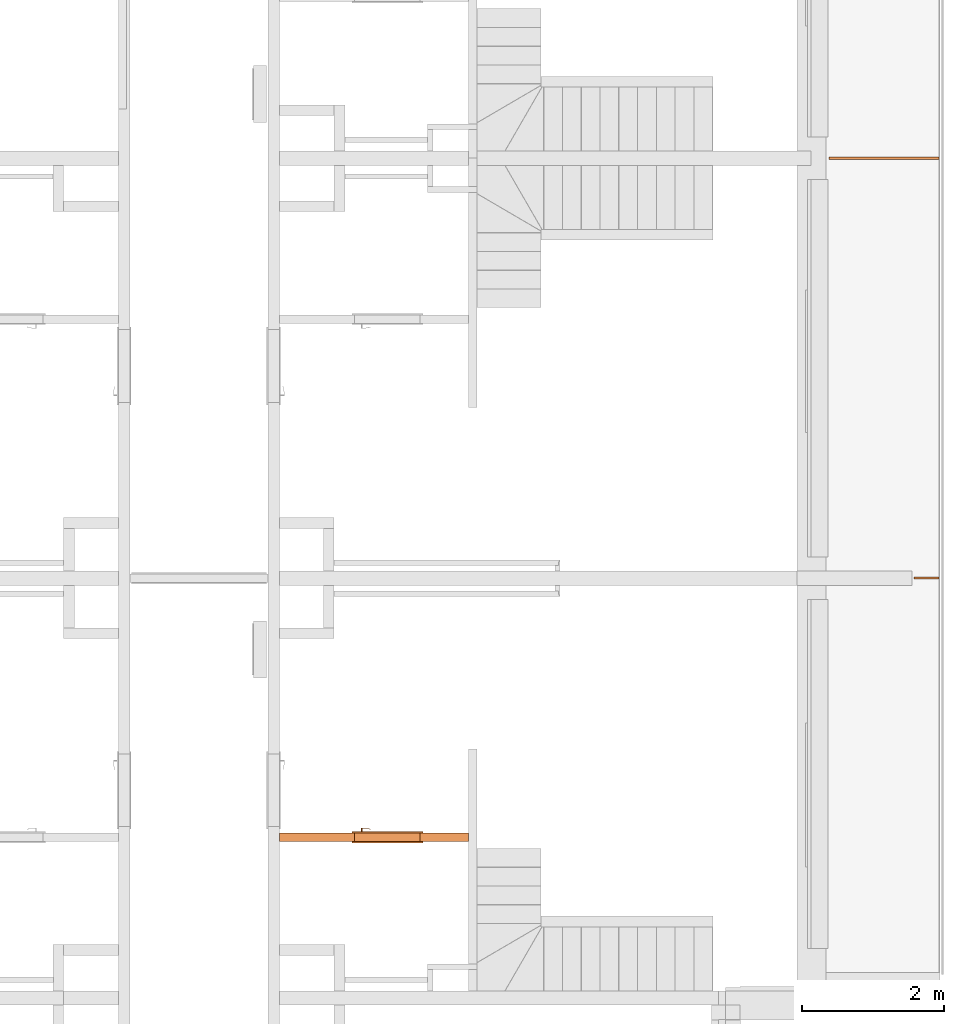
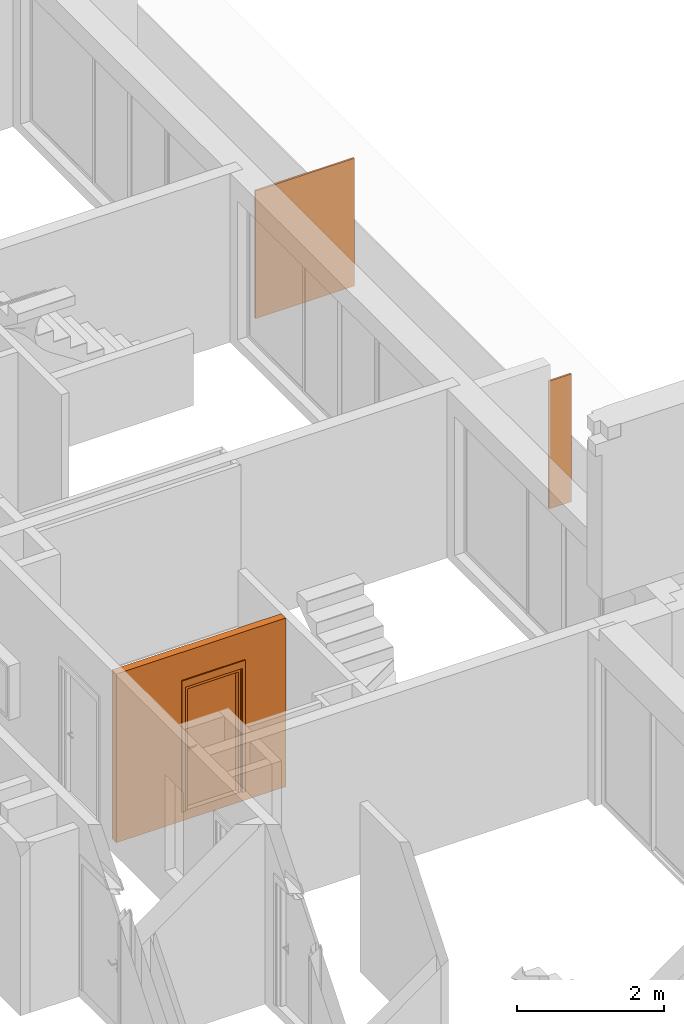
# One storey, part 33 of 61: 4 proxies, 1 opening.
"""IFC2X3 building model written with IfcOpenShell, lengths in millimetres."""

from ifc_helpers import new_model, entity, si_unit, converted_unit, derived_unit, money_unit, direction, frame, origin_with_axes, origin_2d_with_axis, place, context, subcontext, project, spatial, polyline, rectangle, outline, extrude, open_shell, faceted_brep, surface_model, source, transform, mapped, material, type_object, element, fill, save


model = new_model("IFC2X3")

# Units and contexts
model_context = context("Model", 3, precision=0.01, world=origin_with_axes(), true_north=direction((0.34421633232, 0.938890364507)))
body_context = subcontext(model_context, "Body", "Model", "MODEL_VIEW")
ifc_project = project(units=[si_unit("LENGTHUNIT", "METRE", prefix="MILLI"), si_unit("AREAUNIT", "SQUARE_METRE"), si_unit("VOLUMEUNIT", "CUBIC_METRE"), converted_unit("PLANEANGLEUNIT", "DEGREE", entity("IfcPlaneAngleMeasure", 0.0174532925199), si_unit("PLANEANGLEUNIT", "RADIAN"), dimensions=[0, 0, 0, 0, 0, 0, 0]), si_unit("SOLIDANGLEUNIT", "STERADIAN"), money_unit("USD"), converted_unit("TIMEUNIT", "Year", entity("IfcTimeMeasure", 31556926.0), si_unit("TIMEUNIT", "SECOND"), dimensions=[0, 0, 1, 0, 0, 0, 0]), si_unit("MASSUNIT", "GRAM", prefix="KILO"), si_unit("THERMODYNAMICTEMPERATUREUNIT", "DEGREE_CELSIUS"), si_unit("LUMINOUSINTENSITYUNIT", "LUMEN"), si_unit("ENERGYUNIT", "JOULE", prefix="MEGA"), derived_unit("THERMALCONDUCTANCEUNIT", [(si_unit("POWERUNIT", "WATT"), 1), (si_unit("LENGTHUNIT", "METRE"), -1), (si_unit("THERMODYNAMICTEMPERATUREUNIT", "KELVIN"), -1)]), derived_unit("SPECIFICHEATCAPACITYUNIT", [(si_unit("ENERGYUNIT", "JOULE"), 1), (si_unit("MASSUNIT", "GRAM", prefix="KILO"), -1), (si_unit("THERMODYNAMICTEMPERATUREUNIT", "KELVIN"), -1)]), derived_unit("MASSDENSITYUNIT", [(si_unit("MASSUNIT", "GRAM", prefix="KILO"), 1), (si_unit("VOLUMEUNIT", "CUBIC_METRE"), -1)])], contexts=[model_context])

# Site, building, storey
site_placement = place(None, origin_with_axes())
site = spatial("IfcSite", under=ifc_project, at=site_placement, Name="USTRONIE MORSKIE", CompositionType="ELEMENT")
building_placement = place(site_placement, origin_with_axes())
building = spatial("IfcBuilding", under=site, at=building_placement, Name="Budynek", CompositionType="ELEMENT")
storey_placement = place(building_placement, frame((0.0, 0.0, 13000.0), z_axis=(0.0, 0.0, 1.0), x_axis=(1.0, 0.0, 0.0)))
storey = spatial("IfcBuildingStorey", under=building, at=storey_placement, Name="PIĘTRO 4", CompositionType="ELEMENT", Elevation=13000.0)

# Proxies, opening
ifc_material_1 = material(Name="Bloczki silikatowe")
building_element_proxy_type_1 = type_object("IfcBuildingElementProxyType", Name="Bloczki silikatowe 120", PredefinedType="NOTDEFINED")
proxy_1_placement = place(storey_placement, frame((420917.920919, 717361.219701, -160.0), z_axis=(0.0, 0.0, 1.0), x_axis=(-1.0, 0.0, 0.0)))
proxy_1 = element("IfcBuildingElementProxy", 1, at=proxy_1_placement, inside=storey, type_object=building_element_proxy_type_1, material=ifc_material_1, Name="SW-04", context=body_context, shape_type="Brep", body=[
    faceted_brep([(2720.0, -59.9999999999, 2800.0), (2720.0, 59.9999999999, 2800.0), (60.0, 59.9999999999, 2800.0), (60.0, -59.9999999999, 2800.0), (2720.0, -59.9999999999, 0.0), (2720.0, 59.9999999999, 0.0), (60.0, 59.9999999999, 0.0), (60.0, -59.9999999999, 0.0)], [[[0, 1, 2, 3]], [[1, 0, 4, 5]], [[1, 5, 6, 2]], [[7, 3, 2, 6]], [[4, 0, 3, 7]], [[5, 4, 7, 6]]]),
])
opening_placement = place(proxy_1_placement, frame((1200.0, 0.0, 160.0), z_axis=(0.0, 0.0, 1.0), x_axis=(1.0, 0.0, 0.0)))
opening = element("IfcOpeningElement", 2, at=opening_placement, cuts=proxy_1, Name="Dw.4", context=body_context, shape_type="SweptSolid", body=[
    extrude(rectangle(XDim=920.0, YDim=2070.0, at=origin_2d_with_axis()), frame((0.0, 120.0, 1035.0), z_axis=(0.0, -1.0, 0.0), x_axis=(-1.0, 0.0, 0.0)), (0.0, 0.0, 1.0), 360.0),
    extrude(rectangle(XDim=994.0, YDim=2177.0, at=origin_2d_with_axis()), frame((0.0, 60.0000000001, 1088.5), z_axis=(0.0, -1.0, 0.0), x_axis=(-1.0, 0.0, 0.0)), (0.0, 0.0, -1.0), 120.0),
    extrude(rectangle(XDim=994.0, YDim=2177.0, at=origin_2d_with_axis()), frame((0.0, -59.9999999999, 1088.5), z_axis=(0.0, 1.0, 0.0), x_axis=(-1.0, 0.0, 0.0)), (0.0, 0.0, -1.0), 120.0),
])
building_element_proxy_type_2 = type_object("IfcBuildingElementProxyType", Name="Drzwi 23", PredefinedType="NOTDEFINED")
shared_shape = source(origin_with_axes(), body_context, "Body", "SurfaceModel", [
    faceted_brep([(-460.0, -115.0, 0.0), (-435.0, -115.0, 0.0), (-435.0, -120.0, 0.0), (-460.0, -120.0, 0.0), (-460.0, -115.0, 2070.0), (-435.0, -115.0, 2045.0), (-435.0, -120.0, 2045.0), (-460.0, -120.0, 2070.0)], [[[0, 1, 2, 3]], [[0, 4, 5, 1]], [[1, 5, 6, 2]], [[3, 2, 6, 7]], [[4, 0, 3, 7]], [[5, 4, 7, 6]]]),
    faceted_brep([(460.0, -115.0, 2070.0), (435.0, -115.0, 2045.0), (435.0, -120.0, 2045.0), (460.0, -120.0, 2070.0), (460.0, -115.0, 0.0), (435.0, -115.0, 0.0), (435.0, -120.0, 0.0), (460.0, -120.0, 0.0)], [[[0, 1, 2, 3]], [[0, 4, 5, 1]], [[1, 5, 6, 2]], [[3, 2, 6, 7]], [[4, 0, 3, 7]], [[5, 4, 7, 6]]]),
    faceted_brep([(-435.0, -115.0, 2045.0), (435.0, -115.0, 2045.0), (435.0, -120.0, 2045.0), (-435.0, -120.0, 2045.0), (-460.0, -115.0, 2070.0), (460.0, -115.0, 2070.0), (460.0, -120.0, 2070.0), (-460.0, -120.0, 2070.0)], [[[0, 1, 2, 3]], [[0, 4, 5, 1]], [[1, 5, 6, 2]], [[3, 2, 6, 7]], [[4, 0, 3, 7]], [[5, 4, 7, 6]]]),
    faceted_brep([(-497.0, -139.0, 0.0), (-497.0, -120.0, 0.0), (-447.0, -120.0, 0.0), (-447.0, -139.0, 0.0), (-497.0, -139.0, 2177.0), (-497.0, -120.0, 2177.0), (-447.0, -120.0, 2057.0), (-447.0, -139.0, 2057.0)], [[[0, 1, 2, 3]], [[4, 5, 1, 0]], [[1, 5, 6, 2]], [[3, 2, 6, 7]], [[0, 3, 7, 4]], [[7, 6, 5, 4]]]),
    faceted_brep([(497.0, -139.0, 2177.0), (497.0, -120.0, 2177.0), (447.0, -120.0, 2057.0), (447.0, -139.0, 2057.0), (497.0, -139.0, 0.0), (497.0, -120.0, 0.0), (447.0, -120.0, 0.0), (447.0, -139.0, 0.0)], [[[0, 1, 2, 3]], [[4, 5, 1, 0]], [[1, 5, 6, 2]], [[3, 2, 6, 7]], [[0, 3, 7, 4]], [[7, 6, 5, 4]]]),
    faceted_brep([(-497.0, -139.0, 2177.0), (-497.0, -120.0, 2177.0), (-447.0, -120.0, 2057.0), (-447.0, -139.0, 2057.0), (497.0, -139.0, 2177.0), (497.0, -120.0, 2177.0), (447.0, -120.0, 2057.0), (447.0, -139.0, 2057.0)], [[[0, 1, 2, 3]], [[4, 5, 1, 0]], [[1, 5, 6, 2]], [[3, 2, 6, 7]], [[0, 3, 7, 4]], [[7, 6, 5, 4]]]),
    faceted_brep([(-497.0, 19.0, 0.0), (-447.0, 19.0, 0.0), (-447.0, 0.0, 0.0), (-497.0, 0.0, 0.0), (-497.0, 19.0, 2177.0), (-447.0, 19.0, 2057.0), (-447.0, 0.0, 2057.0), (-497.0, 0.0, 2177.0)], [[[0, 1, 2, 3]], [[0, 4, 5, 1]], [[1, 5, 6, 2]], [[3, 2, 6, 7]], [[4, 0, 3, 7]], [[5, 4, 7, 6]]]),
    faceted_brep([(497.0, 19.0, 2177.0), (447.0, 19.0, 2057.0), (447.0, 0.0, 2057.0), (497.0, 0.0, 2177.0), (497.0, 19.0, 0.0), (447.0, 19.0, 0.0), (447.0, 0.0, 0.0), (497.0, 0.0, 0.0)], [[[0, 1, 2, 3]], [[0, 4, 5, 1]], [[1, 5, 6, 2]], [[3, 2, 6, 7]], [[4, 0, 3, 7]], [[5, 4, 7, 6]]]),
    faceted_brep([(-497.0, 19.0, 2177.0), (-447.0, 19.0, 2057.0), (-447.0, 0.0, 2057.0), (-497.0, 0.0, 2177.0), (497.0, 19.0, 2177.0), (447.0, 19.0, 2057.0), (447.0, 0.0, 2057.0), (497.0, 0.0, 2177.0)], [[[0, 1, 2, 3]], [[0, 4, 5, 1]], [[1, 5, 6, 2]], [[3, 2, 6, 7]], [[4, 0, 3, 7]], [[5, 4, 7, 6]]]),
    faceted_brep([(-400.0, -40.0, 0.0), (-400.0, -40.0, 2000.0), (-400.0, -115.0, 2000.0), (-400.0, -115.0, 0.0), (-412.0, -40.0, 2000.0), (-412.0, -40.0, 0.0), (-412.0, 0.0, 2000.0), (-460.0, 0.0, 2000.0), (-460.0, -115.0, 2000.0), (-460.0, -115.0, 0.0), (-460.0, 0.0, 0.0), (-412.0, 0.0, 0.0)], [[[0, 1, 2, 3]], [[4, 1, 0, 5]], [[4, 6, 7, 8, 2, 1]], [[3, 2, 8, 9]], [[5, 0, 3, 9, 10, 11]], [[6, 4, 5, 11]], [[6, 11, 10, 7]], [[10, 9, 8, 7]]]),
    faceted_brep([(412.0, -40.0, 2000.0), (400.0, -40.0, 2000.0), (400.0, -115.0, 2000.0), (460.0, -115.0, 2000.0), (460.0, 0.0, 2000.0), (412.0, 0.0, 2000.0), (412.0, -40.0, 0.0), (400.0, -40.0, 0.0), (400.0, -115.0, 0.0), (460.0, -115.0, 0.0), (460.0, 0.0, 0.0), (412.0, 0.0, 0.0)], [[[0, 1, 2, 3, 4, 5]], [[1, 0, 6, 7]], [[1, 7, 8, 2]], [[3, 2, 8, 9]], [[4, 3, 9, 10]], [[11, 5, 4, 10]], [[0, 5, 11, 6]], [[6, 11, 10, 9, 8, 7]]]),
    faceted_brep([(-412.0, 0.0, 2012.0), (-412.0, 0.0, 2000.0), (-460.0, 0.0, 2000.0), (-460.0, 0.0, 2070.0), (460.0, 0.0, 2070.0), (460.0, 0.0, 2000.0), (412.0, 0.0, 2000.0), (412.0, 0.0, 2012.0), (-412.0, -40.0, 2012.0), (-412.0, -40.0, 2000.0), (-400.0, -40.0, 2000.0), (-400.0, -115.0, 2000.0), (-460.0, -115.0, 2000.0), (-460.0, -115.0, 2070.0), (460.0, -115.0, 2070.0), (460.0, -115.0, 2000.0), (412.0, -40.0, 2000.0), (400.0, -115.0, 2000.0), (400.0, -40.0, 2000.0), (412.0, -40.0, 2012.0)], [[[0, 1, 2, 3, 4, 5, 6, 7]], [[1, 0, 8, 9]], [[9, 10, 11, 12, 2, 1]], [[2, 12, 13, 3]], [[3, 13, 14, 4]], [[4, 14, 15, 5]], [[16, 6, 5, 15, 17, 18]], [[7, 6, 16, 19]], [[0, 7, 19, 8]], [[16, 18, 10, 9, 8, 19]], [[10, 18, 17, 11]], [[17, 15, 14, 13, 12, 11]]]),
    faceted_brep([(-390.5, -40.0, 1060.0), (-390.5, -43.0, 1060.0), (-333.5, -43.0, 1060.0), (-333.5, -40.0, 1060.0), (-390.5, -40.0, 870.0), (-390.5, -43.0, 870.0), (-333.5, -43.0, 870.0), (-333.5, -40.0, 870.0)], [[[0, 1, 2, 3]], [[4, 5, 1, 0]], [[1, 5, 6, 2]], [[3, 2, 6, 7]], [[0, 3, 7, 4]], [[7, 6, 5, 4]]]),
    faceted_brep([(-362.0, -104.0, 990.0), (-362.0, -111.0, 990.0), (-367.0, -111.0, 991.339745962), (-367.0, -104.0, 991.339745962), (-337.0, -104.0, 990.0), (-337.0, -111.0, 990.0), (-337.0, -111.0, 1010.0), (-362.0, -111.0, 1010.0), (-367.0, -111.0, 1008.66025404), (-370.660254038, -111.0, 1005.0), (-372.0, -111.0, 1000.0), (-370.660254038, -111.0, 995.0), (-370.660254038, -104.0, 995.0), (-372.0, -104.0, 1000.0), (-370.660254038, -104.0, 1005.0), (-367.0, -104.0, 1008.66025404), (-362.0, -104.0, 1010.0), (-337.0, -104.0, 1010.0)], [[[0, 1, 2, 3]], [[4, 5, 1, 0]], [[1, 5, 6, 7, 8, 9, 10, 11, 2]], [[3, 2, 11, 12]], [[0, 3, 12, 13, 14, 15, 16, 17, 4]], [[17, 6, 5, 4]], [[16, 7, 6, 17]], [[15, 8, 7, 16]], [[14, 9, 8, 15]], [[13, 10, 9, 14]], [[12, 11, 10, 13]]]),
    surface_model("IfcShellBasedSurfaceModel", [(-337.0, -104.0, 1010.0), (-323.596090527, -111.0, 1009.60730092), (-323.901717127, -104.0, 1009.60730092), (-337.0, -111.0, 1010.0), (-296.890283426, -108.663544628, 1008.82190275), (-323.901717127, -104.0, 990.392699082), (-337.0, -104.0, 990.0), (-337.0, -111.0, 990.0), (-323.596090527, -111.0, 990.392699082), (-296.890283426, -108.663544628, 991.178097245), (-297.804837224, -101.716818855, 1008.82190275), (-297.804837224, -101.716818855, 991.178097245), (-270.489735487, -104.008415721, 991.963495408), (-270.489735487, -104.008415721, 1008.03650459), (-272.006256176, -97.1678329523, 1008.03650459), (-272.006256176, -97.1678329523, 991.963495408), (-244.59537082, -97.0700416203, 992.748893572), (-244.59537082, -97.0700416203, 1007.25110643), (-246.702316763, -90.3876628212, 1007.25110643), (-246.702316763, -90.3876628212, 992.748893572), (-236.538795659, -94.1376880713, 993.0), (-236.538795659, -94.1376880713, 1007.0), (-238.829442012, -87.5221707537, 1007.0), (-238.829442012, -87.5221707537, 993.0)], [open_shell([[[0, 1, 2]], [[0, 3, 1]], [[2, 1, 4]], [[0, 2, 5, 6]], [[3, 7, 8, 1]], [[1, 8, 9, 4]], [[2, 4, 10]], [[2, 10, 11, 5]], [[5, 7, 6]], [[5, 8, 7]], [[11, 9, 8]], [[4, 9, 12, 13]], [[10, 4, 13]], [[10, 14, 15, 11]], [[11, 8, 5]], [[15, 9, 11]], [[15, 12, 9]], [[13, 12, 16, 17]], [[10, 13, 14]], [[14, 18, 19, 15]], [[19, 12, 15]], [[19, 16, 12]], [[17, 16, 20, 21]], [[14, 13, 17]], [[14, 17, 18]], [[18, 22, 23, 19]], [[23, 16, 19]], [[23, 20, 16]], [[22, 21, 20, 23]], [[18, 17, 21]], [[18, 21, 22]]])]),
    faceted_brep([(-351.607695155, -53.0, 994.0), (-350.741669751, -43.0, 993.5), (-349.0, -43.0, 1000.0), (-350.0, -53.0, 1000.0), (-356.0, -53.0, 989.607695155), (-355.5, -43.0, 988.741669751), (-362.0, -43.0, 987.0), (-368.5, -43.0, 988.741669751), (-373.258330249, -43.0, 993.5), (-375.0, -43.0, 1000.0), (-373.258330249, -43.0, 1006.5), (-368.5, -43.0, 1011.25833025), (-362.0, -43.0, 1013.0), (-355.5, -43.0, 1011.25833025), (-350.741669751, -43.0, 1006.5), (-351.607695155, -53.0, 1006.0), (-356.0, -53.0, 1010.39230485), (-362.0, -53.0, 1012.0), (-368.0, -53.0, 1010.39230485), (-372.392304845, -53.0, 1006.0), (-374.0, -53.0, 1000.0), (-372.392304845, -53.0, 994.0), (-368.0, -53.0, 989.607695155), (-362.0, -53.0, 988.0)], [[[0, 1, 2, 3]], [[4, 5, 1, 0]], [[2, 1, 5, 6, 7, 8, 9, 10, 11, 12, 13, 14]], [[3, 2, 14, 15]], [[3, 15, 16, 17, 18, 19, 20, 21, 22, 23, 4, 0]], [[23, 6, 5, 4]], [[22, 7, 6, 23]], [[21, 8, 7, 22]], [[20, 9, 8, 21]], [[19, 10, 9, 20]], [[18, 11, 10, 19]], [[17, 12, 11, 18]], [[16, 13, 12, 17]], [[15, 14, 13, 16]]]),
    faceted_brep([(-344.679491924, -47.0, 895.0), (-342.947441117, -43.0, 894.0), (-340.0, -43.0, 905.0), (-342.0, -47.0, 905.0), (-352.0, -47.0, 887.679491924), (-351.0, -43.0, 885.947441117), (-362.0, -43.0, 883.0), (-373.0, -43.0, 885.947441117), (-381.052558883, -43.0, 894.0), (-384.0, -43.0, 905.0), (-381.052558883, -43.0, 916.0), (-373.0, -43.0, 924.052558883), (-362.0, -43.0, 927.0), (-351.0, -43.0, 924.052558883), (-342.947441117, -43.0, 916.0), (-344.679491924, -47.0, 915.0), (-352.0, -47.0, 922.320508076), (-362.0, -47.0, 925.0), (-372.0, -47.0, 922.320508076), (-379.320508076, -47.0, 915.0), (-382.0, -47.0, 905.0), (-379.320508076, -47.0, 895.0), (-372.0, -47.0, 887.679491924), (-362.0, -47.0, 885.0)], [[[0, 1, 2, 3]], [[4, 5, 1, 0]], [[2, 1, 5, 6, 7, 8, 9, 10, 11, 12, 13, 14]], [[3, 2, 14, 15]], [[3, 15, 16, 17, 18, 19, 20, 21, 22, 23, 4, 0]], [[23, 6, 5, 4]], [[22, 7, 6, 23]], [[21, 8, 7, 22]], [[20, 9, 8, 21]], [[19, 10, 9, 20]], [[18, 11, 10, 19]], [[17, 12, 11, 18]], [[16, 13, 12, 17]], [[15, 14, 13, 16]]]),
    faceted_brep([(-357.050252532, -49.0, 909.050252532), (-356.343145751, -47.0, 908.343145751), (-354.0, -47.0, 914.0), (-355.0, -49.0, 914.0), (-362.0, -49.0, 907.0), (-362.0, -47.0, 906.0), (-367.656854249, -47.0, 908.343145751), (-370.0, -47.0, 914.0), (-367.656854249, -47.0, 919.656854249), (-362.0, -47.0, 922.0), (-356.343145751, -47.0, 919.656854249), (-357.050252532, -49.0, 918.949747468), (-362.0, -49.0, 921.0), (-366.949747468, -49.0, 918.949747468), (-369.0, -49.0, 914.0), (-366.949747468, -49.0, 909.050252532)], [[[0, 1, 2, 3]], [[4, 5, 1, 0]], [[2, 1, 5, 6, 7, 8, 9, 10]], [[3, 2, 10, 11]], [[3, 11, 12, 13, 14, 15, 4, 0]], [[15, 6, 5, 4]], [[14, 7, 6, 15]], [[13, 8, 7, 14]], [[12, 9, 8, 13]], [[11, 10, 9, 12]]]),
    faceted_brep([(-362.0, -53.0, 1010.0), (-362.0, -104.0, 1010.0), (-357.0, -104.0, 1008.66025404), (-357.0, -53.0, 1008.66025404), (-367.0, -53.0, 1008.66025404), (-367.0, -104.0, 1008.66025404), (-370.660254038, -104.0, 1005.0), (-372.0, -104.0, 1000.0), (-370.660254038, -104.0, 995.0), (-367.0, -104.0, 991.339745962), (-362.0, -104.0, 990.0), (-357.0, -104.0, 991.339745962), (-353.339745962, -104.0, 995.0), (-352.0, -104.0, 1000.0), (-353.339745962, -104.0, 1005.0), (-353.339745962, -53.0, 1005.0), (-352.0, -53.0, 1000.0), (-353.339745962, -53.0, 995.0), (-357.0, -53.0, 991.339745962), (-362.0, -53.0, 990.0), (-367.0, -53.0, 991.339745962), (-370.660254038, -53.0, 995.0), (-372.0, -53.0, 1000.0), (-370.660254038, -53.0, 1005.0)], [[[0, 1, 2, 3]], [[4, 5, 1, 0]], [[1, 5, 6, 7, 8, 9, 10, 11, 12, 13, 14, 2]], [[3, 2, 14, 15]], [[0, 3, 15, 16, 17, 18, 19, 20, 21, 22, 23, 4]], [[23, 6, 5, 4]], [[22, 7, 6, 23]], [[21, 8, 7, 22]], [[20, 9, 8, 21]], [[19, 10, 9, 20]], [[18, 11, 10, 19]], [[17, 12, 11, 18]], [[16, 13, 12, 17]], [[15, 14, 13, 16]]]),
    faceted_brep([(-390.5, 0.0, 1060.0), (-333.5, 0.0, 1060.0), (-333.5, 3.0, 1060.0), (-390.5, 3.0, 1060.0), (-390.5, 0.0, 870.0), (-333.5, 0.0, 870.0), (-333.5, 3.0, 870.0), (-390.5, 3.0, 870.0)], [[[0, 1, 2, 3]], [[0, 4, 5, 1]], [[1, 5, 6, 2]], [[3, 2, 6, 7]], [[4, 0, 3, 7]], [[5, 4, 7, 6]]]),
    faceted_brep([(-362.0, 64.0, 990.0), (-367.0, 64.0, 991.339745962), (-367.0, 71.0, 991.339745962), (-362.0, 71.0, 990.0), (-337.0, 64.0, 990.0), (-337.0, 64.0, 1010.0), (-362.0, 64.0, 1010.0), (-367.0, 64.0, 1008.66025404), (-370.660254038, 64.0, 1005.0), (-372.0, 64.0, 1000.0), (-370.660254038, 64.0, 995.0), (-370.660254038, 71.0, 995.0), (-372.0, 71.0, 1000.0), (-370.660254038, 71.0, 1005.0), (-367.0, 71.0, 1008.66025404), (-362.0, 71.0, 1010.0), (-337.0, 71.0, 1010.0), (-337.0, 71.0, 990.0)], [[[0, 1, 2, 3]], [[0, 4, 5, 6, 7, 8, 9, 10, 1]], [[1, 10, 11, 2]], [[3, 2, 11, 12, 13, 14, 15, 16, 17]], [[4, 0, 3, 17]], [[5, 4, 17, 16]], [[6, 5, 16, 15]], [[7, 6, 15, 14]], [[8, 7, 14, 13]], [[9, 8, 13, 12]], [[10, 9, 12, 11]]]),
    surface_model("IfcShellBasedSurfaceModel", [(-337.0, 64.0, 1010.0), (-323.901717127, 64.0, 1009.60730092), (-323.596090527, 71.0, 1009.60730092), (-337.0, 64.0, 990.0), (-323.901717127, 64.0, 990.392699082), (-296.890283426, 68.6635446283, 1008.82190275), (-337.0, 71.0, 1010.0), (-337.0, 71.0, 990.0), (-297.804837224, 61.716818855, 991.178097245), (-297.804837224, 61.716818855, 1008.82190275), (-296.890283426, 68.6635446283, 991.178097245), (-323.596090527, 71.0, 990.392699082), (-272.006256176, 57.1678329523, 991.963495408), (-272.006256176, 57.1678329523, 1008.03650459), (-270.489735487, 64.0084157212, 1008.03650459), (-270.489735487, 64.0084157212, 991.963495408), (-246.702316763, 50.3876628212, 992.748893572), (-246.702316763, 50.3876628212, 1007.25110643), (-244.59537082, 57.0700416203, 1007.25110643), (-244.59537082, 57.0700416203, 992.748893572), (-238.829442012, 47.5221707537, 993.0), (-238.829442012, 47.5221707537, 1007.0), (-236.538795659, 54.1376880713, 1007.0), (-236.538795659, 54.1376880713, 993.0)], [open_shell([[[0, 1, 2]], [[0, 3, 4, 1]], [[1, 5, 2]], [[0, 2, 6]], [[4, 3, 7]], [[1, 4, 8, 9]], [[1, 9, 5]], [[2, 5, 10, 11]], [[6, 2, 11, 7]], [[4, 7, 11]], [[8, 4, 11]], [[9, 8, 12, 13]], [[9, 14, 5]], [[5, 14, 15, 10]], [[8, 11, 10]], [[12, 8, 10]], [[13, 12, 16, 17]], [[9, 13, 14]], [[14, 18, 19, 15]], [[12, 10, 15]], [[16, 12, 15]], [[17, 16, 20, 21]], [[13, 17, 18]], [[13, 18, 14]], [[18, 22, 23, 19]], [[16, 15, 19]], [[20, 16, 19]], [[21, 20, 23, 22]], [[17, 21, 22]], [[17, 22, 18]], [[20, 19, 23]]])]),
    faceted_brep([(-351.607695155, 13.0, 994.0), (-350.0, 13.0, 1000.0), (-349.0, 3.0, 1000.0), (-350.741669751, 3.0, 993.5), (-356.0, 13.0, 989.607695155), (-362.0, 13.0, 988.0), (-368.0, 13.0, 989.607695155), (-372.392304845, 13.0, 994.0), (-374.0, 13.0, 1000.0), (-372.392304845, 13.0, 1006.0), (-368.0, 13.0, 1010.39230485), (-362.0, 13.0, 1012.0), (-356.0, 13.0, 1010.39230485), (-351.607695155, 13.0, 1006.0), (-350.741669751, 3.0, 1006.5), (-355.5, 3.0, 1011.25833025), (-362.0, 3.0, 1013.0), (-368.5, 3.0, 1011.25833025), (-373.258330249, 3.0, 1006.5), (-375.0, 3.0, 1000.0), (-373.258330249, 3.0, 993.5), (-368.5, 3.0, 988.741669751), (-362.0, 3.0, 987.0), (-355.5, 3.0, 988.741669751)], [[[0, 1, 2, 3]], [[1, 0, 4, 5, 6, 7, 8, 9, 10, 11, 12, 13]], [[1, 13, 14, 2]], [[2, 14, 15, 16, 17, 18, 19, 20, 21, 22, 23, 3]], [[4, 0, 3, 23]], [[5, 4, 23, 22]], [[6, 5, 22, 21]], [[7, 6, 21, 20]], [[8, 7, 20, 19]], [[9, 8, 19, 18]], [[10, 9, 18, 17]], [[11, 10, 17, 16]], [[12, 11, 16, 15]], [[13, 12, 15, 14]]]),
    faceted_brep([(-344.679491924, 7.0, 895.0), (-342.0, 7.0, 905.0), (-340.0, 3.0, 905.0), (-342.947441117, 3.0, 894.0), (-352.0, 7.0, 887.679491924), (-362.0, 7.0, 885.0), (-372.0, 7.0, 887.679491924), (-379.320508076, 7.0, 895.0), (-382.0, 7.0, 905.0), (-379.320508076, 7.0, 915.0), (-372.0, 7.0, 922.320508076), (-362.0, 7.0, 925.0), (-352.0, 7.0, 922.320508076), (-344.679491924, 7.0, 915.0), (-342.947441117, 3.0, 916.0), (-351.0, 3.0, 924.052558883), (-362.0, 3.0, 927.0), (-373.0, 3.0, 924.052558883), (-381.052558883, 3.0, 916.0), (-384.0, 3.0, 905.0), (-381.052558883, 3.0, 894.0), (-373.0, 3.0, 885.947441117), (-362.0, 3.0, 883.0), (-351.0, 3.0, 885.947441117)], [[[0, 1, 2, 3]], [[1, 0, 4, 5, 6, 7, 8, 9, 10, 11, 12, 13]], [[1, 13, 14, 2]], [[2, 14, 15, 16, 17, 18, 19, 20, 21, 22, 23, 3]], [[4, 0, 3, 23]], [[5, 4, 23, 22]], [[6, 5, 22, 21]], [[7, 6, 21, 20]], [[8, 7, 20, 19]], [[9, 8, 19, 18]], [[10, 9, 18, 17]], [[11, 10, 17, 16]], [[12, 11, 16, 15]], [[13, 12, 15, 14]]]),
    faceted_brep([(-357.050252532, 9.0, 909.050252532), (-355.0, 9.0, 914.0), (-354.0, 7.0, 914.0), (-356.343145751, 7.0, 908.343145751), (-362.0, 9.0, 907.0), (-366.949747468, 9.0, 909.050252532), (-369.0, 9.0, 914.0), (-366.949747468, 9.0, 918.949747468), (-362.0, 9.0, 921.0), (-357.050252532, 9.0, 918.949747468), (-356.343145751, 7.0, 919.656854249), (-362.0, 7.0, 922.0), (-367.656854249, 7.0, 919.656854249), (-370.0, 7.0, 914.0), (-367.656854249, 7.0, 908.343145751), (-362.0, 7.0, 906.0)], [[[0, 1, 2, 3]], [[1, 0, 4, 5, 6, 7, 8, 9]], [[1, 9, 10, 2]], [[2, 10, 11, 12, 13, 14, 15, 3]], [[4, 0, 3, 15]], [[5, 4, 15, 14]], [[6, 5, 14, 13]], [[7, 6, 13, 12]], [[8, 7, 12, 11]], [[9, 8, 11, 10]]]),
    faceted_brep([(-362.0, 13.0, 1010.0), (-357.0, 13.0, 1008.66025404), (-357.0, 64.0, 1008.66025404), (-362.0, 64.0, 1010.0), (-367.0, 13.0, 1008.66025404), (-370.660254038, 13.0, 1005.0), (-372.0, 13.0, 1000.0), (-370.660254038, 13.0, 995.0), (-367.0, 13.0, 991.339745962), (-362.0, 13.0, 990.0), (-357.0, 13.0, 991.339745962), (-353.339745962, 13.0, 995.0), (-352.0, 13.0, 1000.0), (-353.339745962, 13.0, 1005.0), (-353.339745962, 64.0, 1005.0), (-352.0, 64.0, 1000.0), (-353.339745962, 64.0, 995.0), (-357.0, 64.0, 991.339745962), (-362.0, 64.0, 990.0), (-367.0, 64.0, 991.339745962), (-370.660254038, 64.0, 995.0), (-372.0, 64.0, 1000.0), (-370.660254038, 64.0, 1005.0), (-367.0, 64.0, 1008.66025404)], [[[0, 1, 2, 3]], [[0, 4, 5, 6, 7, 8, 9, 10, 11, 12, 13, 1]], [[1, 13, 14, 2]], [[3, 2, 14, 15, 16, 17, 18, 19, 20, 21, 22, 23]], [[4, 0, 3, 23]], [[5, 4, 23, 22]], [[6, 5, 22, 21]], [[7, 6, 21, 20]], [[8, 7, 20, 19]], [[9, 8, 19, 18]], [[10, 9, 18, 17]], [[11, 10, 17, 16]], [[12, 11, 16, 15]], [[13, 12, 15, 14]]]),
    faceted_brep([(412.0, 0.0, 0.0), (412.0, -40.0, 0.0), (-412.0, -40.0, 0.0), (-412.0, 0.0, 0.0), (412.0, 0.0, 2012.0), (412.0, -40.0, 2012.0), (-412.0, -40.0, 2012.0), (-412.0, 0.0, 2012.0)], [[[0, 1, 2, 3]], [[4, 5, 1, 0]], [[1, 5, 6, 2]], [[3, 2, 6, 7]], [[0, 3, 7, 4]], [[7, 6, 5, 4]]]),
])
proxy_2_placement = place(opening_placement, frame((400.0, 0.0, 0.0), z_axis=(0.0, 0.0, 1.0), x_axis=(-1.0, 0.0, 0.0)))
proxy_2 = element("IfcBuildingElementProxy", 3, at=proxy_2_placement, inside=storey, type_object=building_element_proxy_type_2, Name="Dw.4", context=body_context, shape_type="MappedRepresentation", body=[
    mapped(shared_shape, transform((400.0, 59.9999999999, 0.0))),
])
fill(opening, proxy_2)

# Proxies
ifc_material_2 = material(Name="Woda")
building_element_proxy_type_3 = type_object("IfcBuildingElementProxyType", Name="Woda 30", PredefinedType="NOTDEFINED")
proxy_3_placement = place(storey_placement, frame((425917.920919, 726901.199036, 20.0), z_axis=(0.0, 0.0, 1.0), x_axis=(0.999999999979, -6.40856598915e-06, 0.0)))
element("IfcBuildingElementProxy", 4, at=proxy_3_placement, inside=storey, type_object=building_element_proxy_type_3, material=ifc_material_2, Name="Œciana-007", context=body_context, shape_type="SweptSolid", body=[
    extrude(outline(polyline([(0.0, -14.9999999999), (1550.00000003, -14.9999999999), (1550.00000003, 15.0), (0.0, 15.0), (0.0, -14.9999999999)])), origin_with_axes(), (0.0, 0.0, 1.0), 2120.0),
])
proxy_4_placement = place(storey_placement, frame((427117.920919, 721001.193035, 20.0), z_axis=(0.0, 0.0, 1.0), x_axis=(0.99999999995, -1.0002154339e-05, 0.0)))
element("IfcBuildingElementProxy", 5, at=proxy_4_placement, inside=storey, type_object=building_element_proxy_type_3, material=ifc_material_2, Name="Œciana-007", context=body_context, shape_type="SweptSolid", body=[
    extrude(outline(polyline([(0.0, -15.0000000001), (350.000000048, -15.0000000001), (350.000000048, 14.9999999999), (0.0, 14.9999999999), (0.0, -15.0000000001)])), origin_with_axes(), (0.0, 0.0, 1.0), 2120.0),
])

save(model, "model.ifc")
